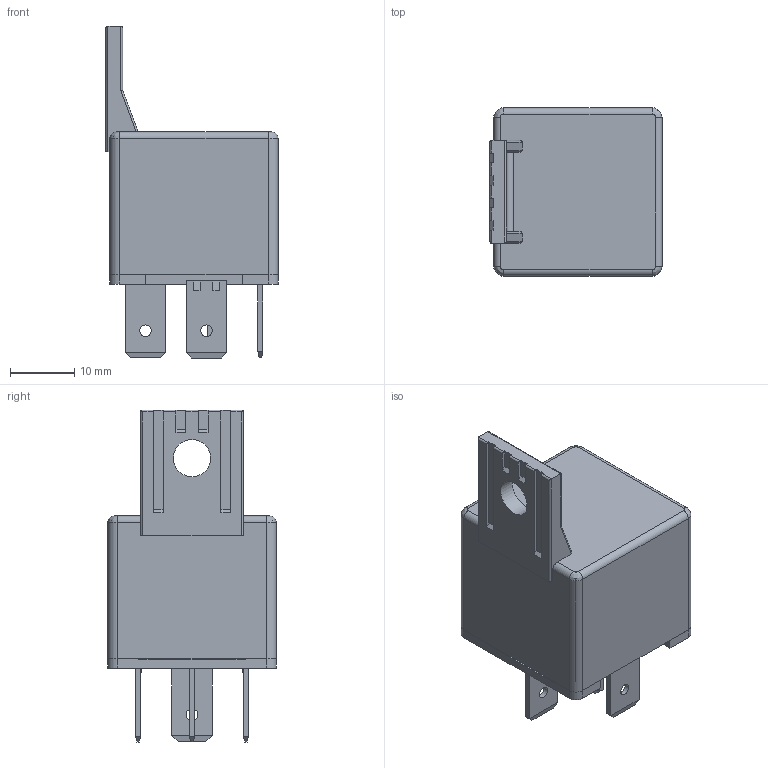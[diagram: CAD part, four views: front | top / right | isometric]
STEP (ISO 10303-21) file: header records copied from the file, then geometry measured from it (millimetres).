
FILE_DESCRIPTION(('FreeCAD Model'),'2;1');
FILE_NAME('C:/Users/Jane Koetz/Desktop/SBA.step','2020-05-17T11:21:27',( 'VKV'),('Metaltex'),'Open CASCADE STEP processor 7.3','FreeCAD', 'Unknown');
FILE_SCHEMA(('AUTOMOTIVE_DESIGN { 1 0 10303 214 1 1 1 1 }'));
Length unit declared in the file: millimetre
Products named in the file (1): SBA
Bounding box: 26.8 x 26.2 x 51.7 mm (x, y, z)
Volume: 4323.8 mm3; surface area: 9897.6 mm2
Topology: 11 solids, 11 shells, 507 faces, 3924 edges, 11279 vertices
Faces by surface type: plane 427, cylinder 71, cone 4, bspline 4, extrusion 1
Full cylindrical faces by diameter (mm): 1.8 x5, 5.8 x1
Entity records: 49288 total; most frequent: CARTESIAN_POINT 15813, DIRECTION 5353, VECTOR 3469, LINE 3468, GEOMETRIC_CURVE_SET 2617, ORIENTED_EDGE 2616, TRIMMED_CURVE 2616, EDGE_CURVE 1308
